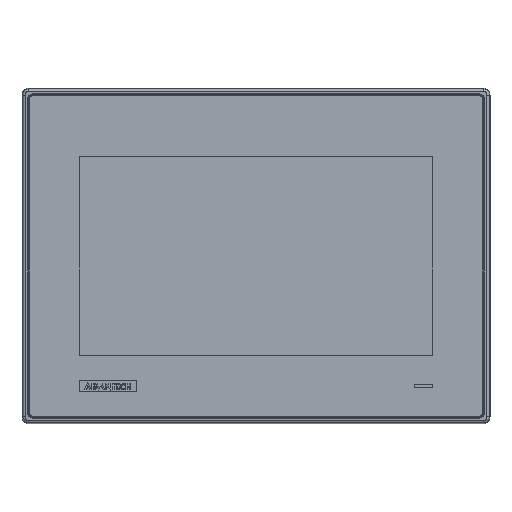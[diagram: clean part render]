
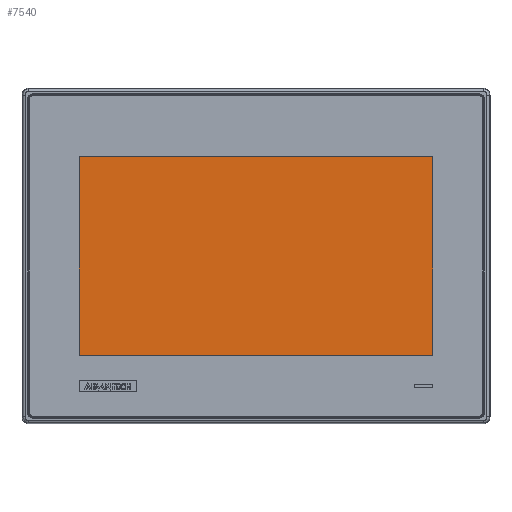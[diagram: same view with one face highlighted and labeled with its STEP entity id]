
A CAD part, top view. The second image highlights one B-rep face of the part: STEP entity #7540.
In plain terms, the highlighted planar face has unit normal (0, 0, 1).
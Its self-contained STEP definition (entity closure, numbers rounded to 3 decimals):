
#4933 = FACE_OUTER_BOUND ( 'NONE', #79534, .T. ) ;
#7540 = ADVANCED_FACE ( 'NONE', ( #4933 ), #105040, .T. ) ;
#26906 = VERTEX_POINT ( 'NONE', #99885 ) ;
#29071 = ORIENTED_EDGE ( 'NONE', *, *, #93401, .T. ) ;
#30476 = DIRECTION ( 'NONE',  ( 0., 1., 0. ) ) ;
#39451 = CARTESIAN_POINT ( 'NONE',  ( -77.505, 33.083, 6.79 ) ) ;
#42716 = CARTESIAN_POINT ( 'NONE',  ( 77.505, 33.083, 6.79 ) ) ;
#42897 = VECTOR ( 'NONE', #85030, 1000. ) ;
#52940 = LINE ( 'NONE', #156943, #42897 ) ;
#63123 = ORIENTED_EDGE ( 'NONE', *, *, #157676, .T. ) ;
#63628 = AXIS2_PLACEMENT_3D ( 'NONE', #125690, #84094, #154187 ) ;
#79534 = EDGE_LOOP ( 'NONE', ( #88545, #29071, #63123, #181173 ) ) ;
#80775 = EDGE_CURVE ( 'NONE', #151686, #26906, #52940, .T. ) ;
#84094 = DIRECTION ( 'NONE',  ( 0., 0., 1. ) ) ;
#85030 = DIRECTION ( 'NONE',  ( 0., -1., 0. ) ) ;
#87224 = EDGE_CURVE ( 'NONE', #184631, #151686, #168984, .T. ) ;
#88545 = ORIENTED_EDGE ( 'NONE', *, *, #80775, .T. ) ;
#89572 = DIRECTION ( 'NONE',  ( 1., 0., 0. ) ) ;
#93401 = EDGE_CURVE ( 'NONE', #26906, #131853, #106530, .T. ) ;
#96131 = CARTESIAN_POINT ( 'NONE',  ( -77.505, 33.083, 6.79 ) ) ;
#97107 = DIRECTION ( 'NONE',  ( -1., 0., 0. ) ) ;
#99885 = CARTESIAN_POINT ( 'NONE',  ( -77.505, -53.837, 6.79 ) ) ;
#100352 = VECTOR ( 'NONE', #89572, 1000. ) ;
#105040 = PLANE ( 'NONE',  #63628 ) ;
#106530 = LINE ( 'NONE', #164268, #100352 ) ;
#119967 = VECTOR ( 'NONE', #30476, 1000. ) ;
#125690 = CARTESIAN_POINT ( 'NONE',  ( 0.003, -10.38, 6.79 ) ) ;
#128695 = LINE ( 'NONE', #42716, #119967 ) ;
#131853 = VERTEX_POINT ( 'NONE', #159113 ) ;
#151686 = VERTEX_POINT ( 'NONE', #96131 ) ;
#152977 = VECTOR ( 'NONE', #97107, 1000. ) ;
#154187 = DIRECTION ( 'NONE',  ( 1., 0., 0. ) ) ;
#156943 = CARTESIAN_POINT ( 'NONE',  ( -77.505, 33.083, 6.79 ) ) ;
#157676 = EDGE_CURVE ( 'NONE', #131853, #184631, #128695, .T. ) ;
#159113 = CARTESIAN_POINT ( 'NONE',  ( 77.505, -53.837, 6.79 ) ) ;
#164268 = CARTESIAN_POINT ( 'NONE',  ( -77.505, -53.837, 6.79 ) ) ;
#168984 = LINE ( 'NONE', #39451, #152977 ) ;
#173480 = CARTESIAN_POINT ( 'NONE',  ( 77.505, 33.083, 6.79 ) ) ;
#181173 = ORIENTED_EDGE ( 'NONE', *, *, #87224, .T. ) ;
#184631 = VERTEX_POINT ( 'NONE', #173480 ) ;
